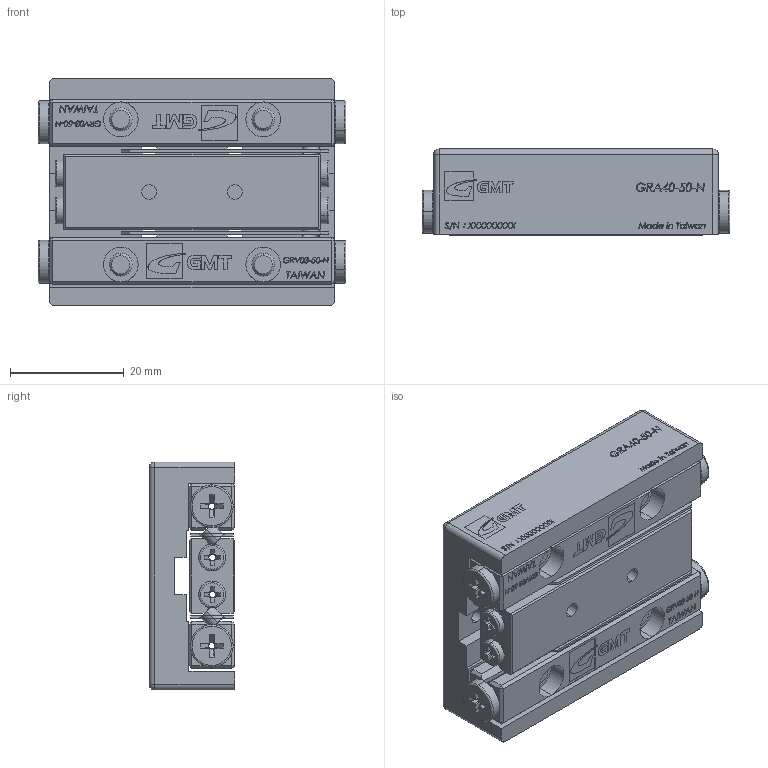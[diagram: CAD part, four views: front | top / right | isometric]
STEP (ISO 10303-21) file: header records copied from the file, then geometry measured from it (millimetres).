
FILE_DESCRIPTION (( 'STEP AP203' ), '1' );
FILE_NAME ('GRA40-50.STEP', '2012-10-19T01:31:32', ( '123' ), ( '' ), 'SwSTEP 2.0', 'SolidWorks 2012', '' );
FILE_SCHEMA (( 'CONFIG_CONTROL_DESIGN' ));
Length unit declared in the file: millimetre
Products named in the file (1): GRA40-50
Bounding box: 54 x 15.07 x 40 mm (x, y, z)
Surface area: 13214.8 mm2 (no closed solid volume)
Topology: 0 solids, 60 shells, 799 faces, 3770 edges, 2928 vertices
Faces by surface type: plane 563, cylinder 98, cone 52, bspline 42, torus 40, sphere 4
Entity records: 45660 total; most frequent: CARTESIAN_POINT 17016, DIRECTION 5340, ORIENTED_EDGE 5264, EDGE_CURVE 3758, VERTEX_POINT 2928, VECTOR 2540, LINE 2540, AXIS2_PLACEMENT_3D 1400
